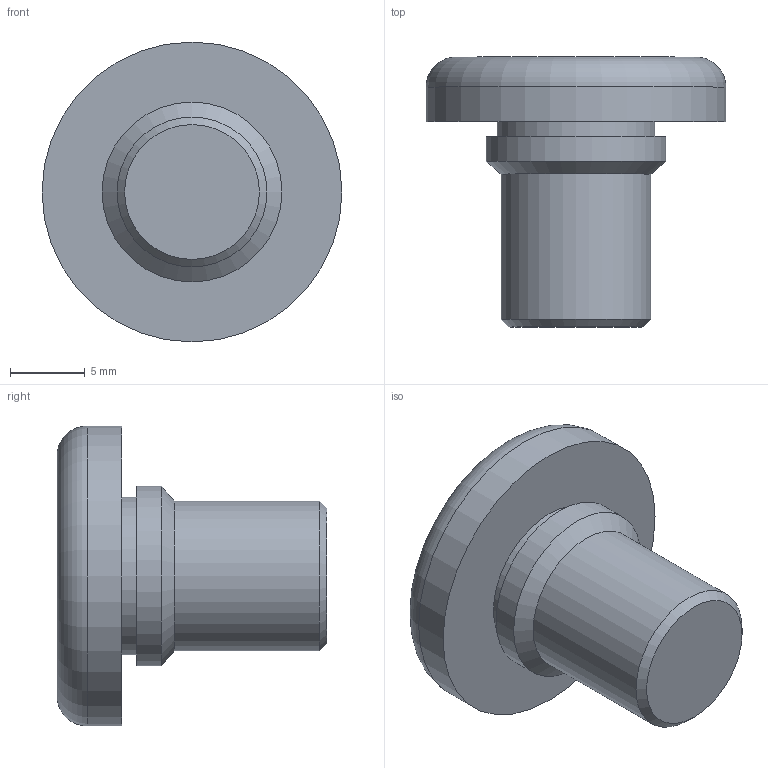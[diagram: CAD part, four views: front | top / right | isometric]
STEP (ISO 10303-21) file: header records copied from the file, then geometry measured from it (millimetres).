
FILE_DESCRIPTION(/* description */ (''),/* implementation_level */ '2;1');
FILE_NAME(/* name */ 'C:\Users\keval.kumar\Desktop\Fastit\Press Screw\M10\Press Screw_M10 x18.stp',/* time_stamp */ '2024-03-12T17:50:47+05:00',/* author */ ('keval.kumar'),/* organization */ (''),/* preprocessor_version */ 'ST-DEVELOPER v18.1',/* originating_system */ 'Autodesk Inventor 2022',/* authorisation */ '');
FILE_SCHEMA (('AUTOMOTIVE_DESIGN { 1 0 10303 214 3 1 1 }'));
Length unit declared in the file: millimetre
Products named in the file (1): Press Screw_M10 x18
Bounding box: 20 x 18 x 20 mm (x, y, z)
Volume: 2451.1 mm3; surface area: 1312.9 mm2
Topology: 1 solids, 1 shells, 11 faces, 19 edges, 12 vertices
Faces by surface type: cylinder 4, plane 4, cone 2, torus 1
Full cylindrical faces by diameter (mm): 10 x1, 10.5 x1, 12 x1, 20 x1
Entity records: 313 total; most frequent: DIRECTION 56, CARTESIAN_POINT 43, ORIENTED_EDGE 38, AXIS2_PLACEMENT_3D 25, EDGE_CURVE 19, EDGE_LOOP 13, CIRCLE 13, VERTEX_POINT 12
